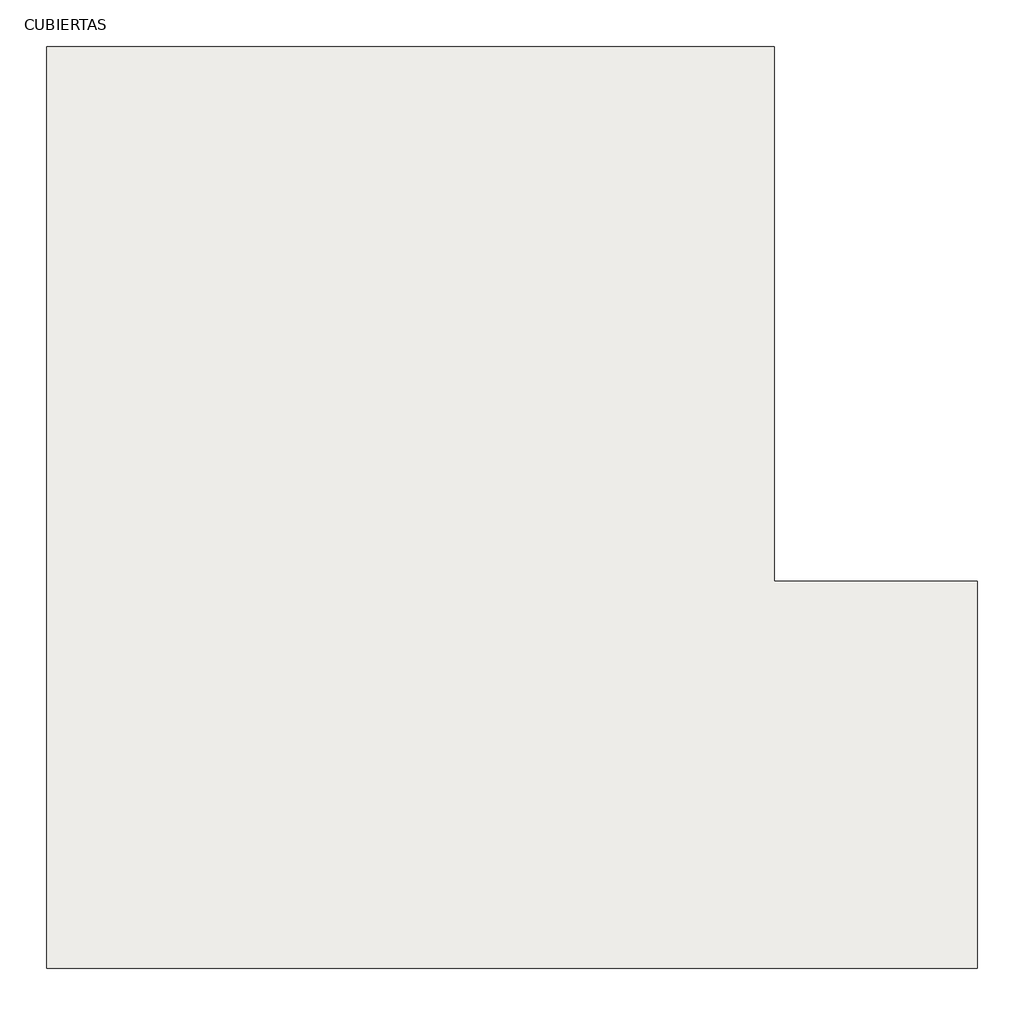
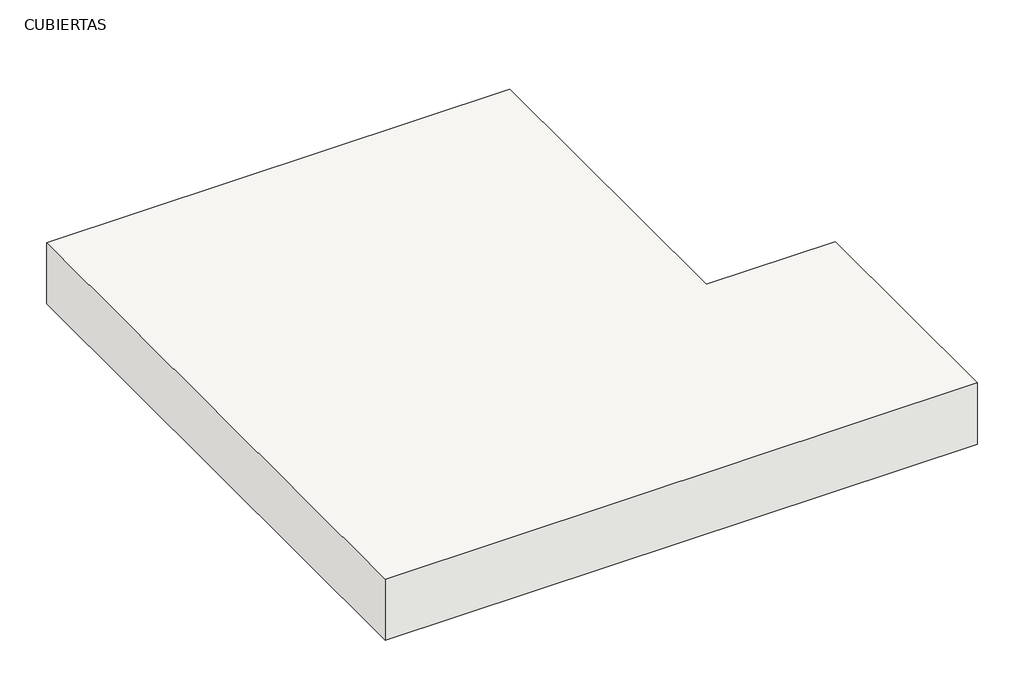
# One storey: 1 roof.
"""IFC4 building model written with IfcOpenShell, lengths in millimetres."""

from ifc_helpers import new_model, si_unit, frame, origin, place, context, project, spatial, polyline, outline, extrude, element, save

model = new_model("IFC4")

# Units and contexts
model_context = context("Model", 3, world=origin())
ifc_project = project(units=[si_unit("LENGTHUNIT", "METRE", prefix="MILLI")], contexts=[model_context])

# Site, building, storey
site = spatial("IfcSite", under=ifc_project)
building = spatial("IfcBuilding", under=site)
storey = spatial("IfcBuildingStorey", under=building, Name="CUBIERTAS", Elevation=13000.0)

# Roof
placement = place(None, origin())
element("IfcRoof", 1, ObjectType="Cubierta", at=placement, inside=storey, context=model_context, shape_type="SweptSolid", body=[
    extrude(outline(polyline([(-7705.818683, -9317.7974399), (-4765.818683, -9317.7974399), (-4765.818683, -11477.7974399), (-3945.818683, -11477.7974399), (-3945.818683, -13040.2974399), (-7705.818683, -13040.2974399), (-7705.818683, -9317.7974399)])), frame((0.0, 0.0, 13000.0), z_axis=(0.0, 0.0, 1.0), x_axis=(1.0, 0.0, 0.0)), (0.0, 0.0, 1.0), 410.0),
])

save(model, "model.ifc")
